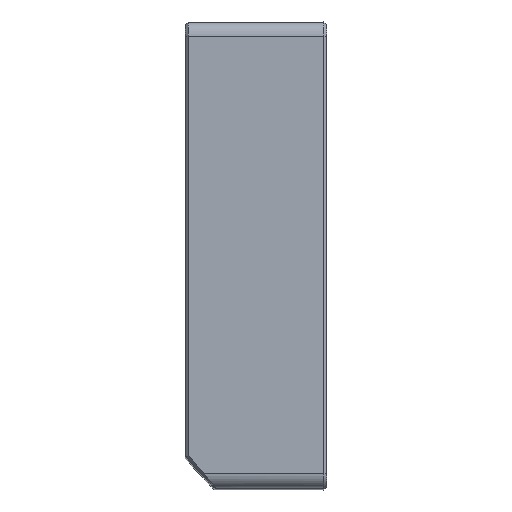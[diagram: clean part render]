
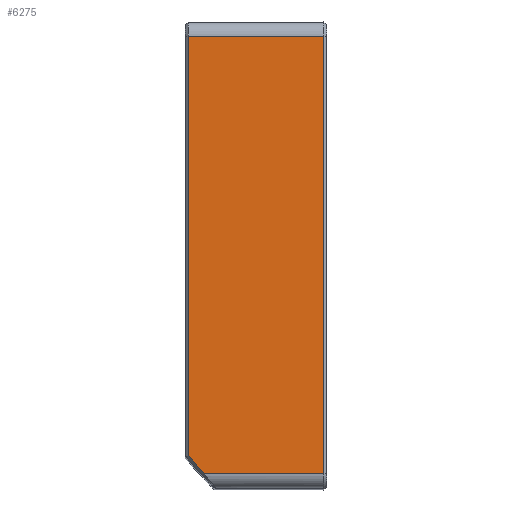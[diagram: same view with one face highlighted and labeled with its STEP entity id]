
A CAD part, top view. The second image highlights one B-rep face of the part: STEP entity #6275.
In plain terms, the highlighted planar face has unit normal (0, 0, 1).
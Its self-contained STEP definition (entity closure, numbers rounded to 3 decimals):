
#1005=DIRECTION('',(0.,1.,0.));
#1006=VECTOR('',#1005,30.3);
#1007=CARTESIAN_POINT('',(4.7,-16.4,79.));
#1008=LINE('',#1007,#1006);
#1009=DIRECTION('',(-1.,0.,0.));
#1010=VECTOR('',#1009,8.248);
#1011=CARTESIAN_POINT('',(4.7,-16.4,79.));
#1012=LINE('',#1011,#1010);
#1013=DIRECTION('',(0.681,-0.732,0.));
#1014=VECTOR('',#1013,1.691);
#1015=CARTESIAN_POINT('',(-4.7,-15.163,79.));
#1016=LINE('',#1015,#1014);
#1017=DIRECTION('',(0.,-1.,0.));
#1018=VECTOR('',#1017,29.063);
#1019=CARTESIAN_POINT('',(-4.7,13.9,79.));
#1020=LINE('',#1019,#1018);
#1021=DIRECTION('',(1.,0.,0.));
#1022=VECTOR('',#1021,9.4);
#1023=CARTESIAN_POINT('',(-4.7,13.9,79.));
#1024=LINE('',#1023,#1022);
#5179=CARTESIAN_POINT('',(4.7,13.9,79.));
#5181=VERTEX_POINT('',#5179);
#5187=CARTESIAN_POINT('',(4.7,-16.4,79.));
#5188=VERTEX_POINT('',#5187);
#5215=CARTESIAN_POINT('',(-3.548,-16.4,
79.));
#5216=VERTEX_POINT('',#5215);
#5219=CARTESIAN_POINT('',(-4.7,13.9,79.));
#5220=VERTEX_POINT('',#5219);
#5233=CARTESIAN_POINT('',(-4.7,-15.163,79.));
#5234=VERTEX_POINT('',#5233);
#6259=CARTESIAN_POINT('',(-4.9,36.892,79.));
#6260=DIRECTION('',(0.,0.,-1.));
#6261=DIRECTION('',(0.,-1.,0.));
#6262=AXIS2_PLACEMENT_3D('',#6259,#6260,#6261);
#6263=PLANE('',#6262);
#6265=ORIENTED_EDGE('',*,*,#6264,.F.);
#6267=ORIENTED_EDGE('',*,*,#6266,.T.);
#6269=ORIENTED_EDGE('',*,*,#6268,.F.);
#6271=ORIENTED_EDGE('',*,*,#6270,.F.);
#6272=ORIENTED_EDGE('',*,*,#6250,.T.);
#6273=EDGE_LOOP('',(#6265,#6267,#6269,#6271,#6272));
#6274=FACE_OUTER_BOUND('',#6273,.F.);
#6275=ADVANCED_FACE('',(#6274),#6263,.F.);
#6250=EDGE_CURVE('',#5220,#5181,#1024,.T.);
#6264=EDGE_CURVE('',#5188,#5181,#1008,.T.);
#6266=EDGE_CURVE('',#5188,#5216,#1012,.T.);
#6268=EDGE_CURVE('',#5234,#5216,#1016,.T.);
#6270=EDGE_CURVE('',#5220,#5234,#1020,.T.);
